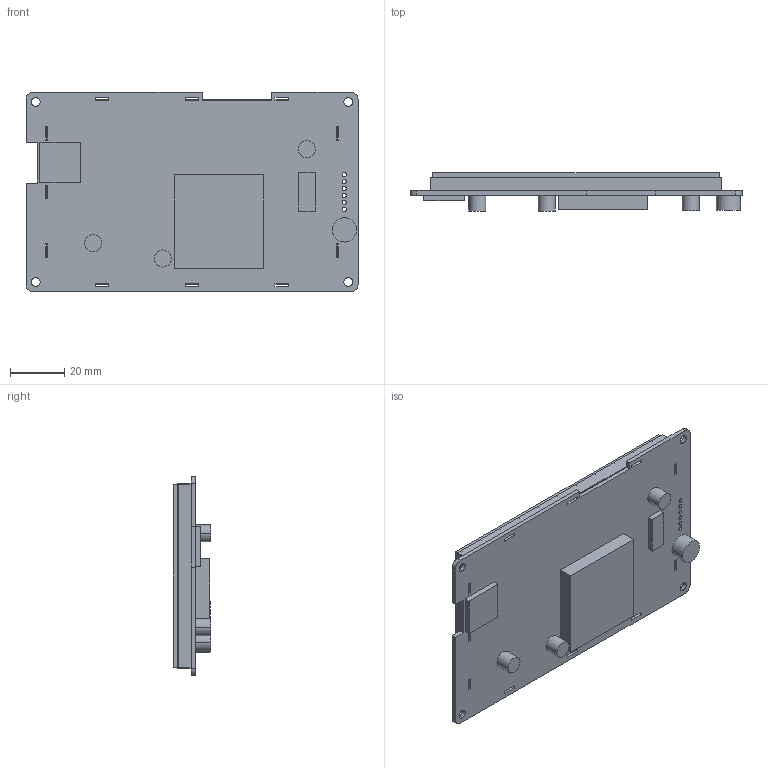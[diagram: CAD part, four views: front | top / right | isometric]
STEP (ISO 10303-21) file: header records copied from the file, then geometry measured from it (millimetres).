
FILE_DESCRIPTION((''),'2;1');
FILE_NAME('DMG48270C043-03WTC','2022-09-06T',('Administrator'),(''),'PRO/ENGINEER BY PARAMETRIC TECHNOLOGY CORPORATION, 2011310','PRO/ENGINEER BY PARAMETRIC TECHNOLOGY CORPORATION, 2011310','');
FILE_SCHEMA(('CONFIG_CONTROL_DESIGN'));
Length unit declared in the file: millimetre
Products named in the file (1): DMG48270C043-03WTC
Bounding box: 121.92 x 13.9 x 73.15 mm (x, y, z)
Volume: 54041.5 mm3; surface area: 50602.2 mm2
Topology: 1 solids, 3 shells, 153 faces, 420 edges, 272 vertices
Faces by surface type: plane 121, cylinder 32
Entity records: 4904 total; most frequent: CARTESIAN_POINT 845, ORIENTED_EDGE 840, DIRECTION 790, EDGE_CURVE 420, VECTOR 356, LINE 356, VERTEX_POINT 272, AXIS2_PLACEMENT_3D 217
